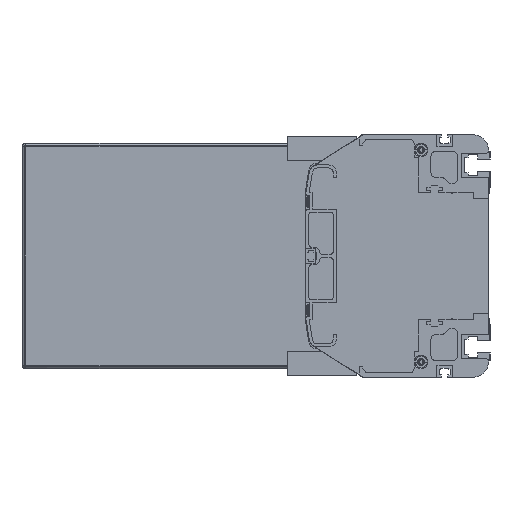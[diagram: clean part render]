
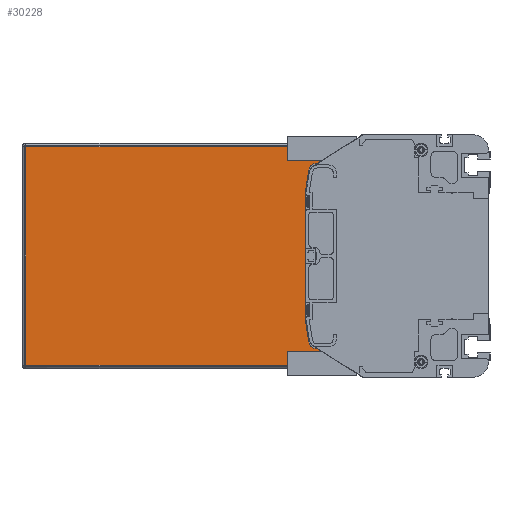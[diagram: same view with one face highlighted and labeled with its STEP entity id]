
A CAD part, left-side view. The second image highlights one B-rep face of the part: STEP entity #30228.
In plain terms, the highlighted planar face has unit normal (-1, 0, 0).
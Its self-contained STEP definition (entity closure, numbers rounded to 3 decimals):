
#784=DIRECTION('',(0.,-1.,0.));
#785=VECTOR('',#784,220.5);
#786=CARTESIAN_POINT('',(886.5,306.5,-72.));
#787=LINE('',#786,#785);
#4974=DIRECTION('',(0.,-1.,0.));
#4975=VECTOR('',#4974,28.728);
#4976=CARTESIAN_POINT('',(886.5,114.728,61.));
#4977=LINE('',#4976,#4975);
#5020=DIRECTION('',(0.,1.,0.));
#5021=VECTOR('',#5020,28.728);
#5022=CARTESIAN_POINT('',(886.5,86.,-61.));
#5023=LINE('',#5022,#5021);
#5033=DIRECTION('',(0.,0.,-1.));
#5034=VECTOR('',#5033,11.);
#5035=CARTESIAN_POINT('',(886.5,86.,-61.));
#5036=LINE('',#5035,#5034);
#5042=DIRECTION('',(0.,0.,-1.));
#5043=VECTOR('',#5042,11.);
#5044=CARTESIAN_POINT('',(886.5,86.,72.));
#5045=LINE('',#5044,#5043);
#11058=CARTESIAN_POINT('',(886.5,114.728,56.));
#11059=DIRECTION('',(-1.,0.,0.));
#11060=DIRECTION('',(0.,0.,1.));
#11061=AXIS2_PLACEMENT_3D('',#11058,#11059,#11060);
#11063=DIRECTION('',(0.,0.156,-0.988));
#11064=VECTOR('',#11063,14.963);
#11065=CARTESIAN_POINT('',(886.5,119.666,56.78));
#11066=LINE('',#11065,#11064);
#11067=DIRECTION('',(0.,-0.156,-0.988));
#11068=VECTOR('',#11067,14.963);
#11069=CARTESIAN_POINT('',(886.5,122.,-42.));
#11070=LINE('',#11069,#11068);
#11071=CARTESIAN_POINT('',(886.5,114.728,-56.));
#11072=DIRECTION('',(-1.,0.,0.));
#11073=DIRECTION('',(0.,0.988,-0.156));
#11074=AXIS2_PLACEMENT_3D('',#11071,#11072,#11073);
#11080=DIRECTION('',(0.,0.,-1.));
#11081=VECTOR('',#11080,144.);
#11082=CARTESIAN_POINT('',(886.5,306.5,72.));
#11083=LINE('',#11082,#11081);
#11170=DIRECTION('',(0.,1.,0.));
#11171=VECTOR('',#11170,220.5);
#11172=CARTESIAN_POINT('',(886.5,86.,72.));
#11173=LINE('',#11172,#11171);
#11461=DIRECTION('',(0.,0.,1.));
#11462=VECTOR('',#11461,84.);
#11463=CARTESIAN_POINT('',(886.5,122.,-42.));
#11464=LINE('',#11463,#11462);
#13366=CARTESIAN_POINT('',(886.5,306.5,-72.));
#13367=CARTESIAN_POINT('',(886.5,86.,-72.));
#13368=VERTEX_POINT('',#13366);
#13369=VERTEX_POINT('',#13367);
#13370=CARTESIAN_POINT('',(886.5,86.,-61.));
#13371=VERTEX_POINT('',#13370);
#13372=CARTESIAN_POINT('',(886.5,114.728,-61.));
#13373=VERTEX_POINT('',#13372);
#13374=CARTESIAN_POINT('',(886.5,119.666,-56.78));
#13375=VERTEX_POINT('',#13374);
#13376=CARTESIAN_POINT('',(886.5,122.,-42.));
#13377=VERTEX_POINT('',#13376);
#13378=CARTESIAN_POINT('',(886.5,122.,42.));
#13379=VERTEX_POINT('',#13378);
#13380=CARTESIAN_POINT('',(886.5,119.666,56.78));
#13381=VERTEX_POINT('',#13380);
#13382=CARTESIAN_POINT('',(886.5,114.728,61.));
#13383=VERTEX_POINT('',#13382);
#13384=CARTESIAN_POINT('',(886.5,86.,61.));
#13385=VERTEX_POINT('',#13384);
#13386=CARTESIAN_POINT('',(886.5,86.,72.));
#13387=VERTEX_POINT('',#13386);
#13388=CARTESIAN_POINT('',(886.5,306.5,72.));
#13389=VERTEX_POINT('',#13388);
#30202=CARTESIAN_POINT('',(886.5,196.25,0.));
#30203=DIRECTION('',(1.,0.,0.));
#30204=DIRECTION('',(0.,0.,-1.));
#30205=AXIS2_PLACEMENT_3D('',#30202,#30203,#30204);
#30206=PLANE('',#30205);
#30207=ORIENTED_EDGE('',*,*,#17384,.F.);
#30209=ORIENTED_EDGE('',*,*,#30208,.F.);
#30211=ORIENTED_EDGE('',*,*,#30210,.F.);
#30212=ORIENTED_EDGE('',*,*,#21857,.T.);
#30213=ORIENTED_EDGE('',*,*,#21764,.F.);
#30215=ORIENTED_EDGE('',*,*,#30214,.T.);
#30217=ORIENTED_EDGE('',*,*,#30216,.T.);
#30219=ORIENTED_EDGE('',*,*,#30218,.F.);
#30221=ORIENTED_EDGE('',*,*,#30220,.T.);
#30223=ORIENTED_EDGE('',*,*,#30222,.T.);
#30224=ORIENTED_EDGE('',*,*,#21815,.F.);
#30225=ORIENTED_EDGE('',*,*,#21831,.T.);
#30226=EDGE_LOOP('',(#30207,#30209,#30211,#30212,#30213,#30215,#30217,#30219,
#30221,#30223,#30224,#30225));
#30227=FACE_OUTER_BOUND('',#30226,.F.);
#30228=ADVANCED_FACE('',(#30227),#30206,.F.);
#11062=CIRCLE('',#11061,5.);
#11075=CIRCLE('',#11074,5.);
#17384=EDGE_CURVE('',#13368,#13369,#787,.T.);
#21764=EDGE_CURVE('',#13383,#13385,#4977,.T.);
#21815=EDGE_CURVE('',#13371,#13373,#5023,.T.);
#21831=EDGE_CURVE('',#13371,#13369,#5036,.T.);
#21857=EDGE_CURVE('',#13387,#13385,#5045,.T.);
#30208=EDGE_CURVE('',#13389,#13368,#11083,.T.);
#30210=EDGE_CURVE('',#13387,#13389,#11173,.T.);
#30214=EDGE_CURVE('',#13383,#13381,#11062,.T.);
#30216=EDGE_CURVE('',#13381,#13379,#11066,.T.);
#30218=EDGE_CURVE('',#13377,#13379,#11464,.T.);
#30220=EDGE_CURVE('',#13377,#13375,#11070,.T.);
#30222=EDGE_CURVE('',#13375,#13373,#11075,.T.);
